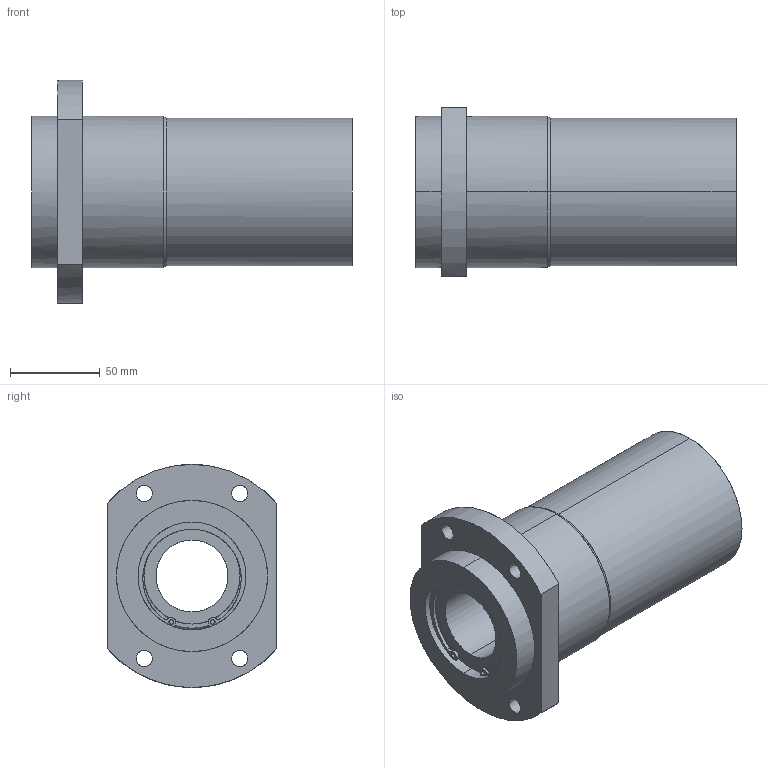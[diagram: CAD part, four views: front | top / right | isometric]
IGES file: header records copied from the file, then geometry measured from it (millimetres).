
Global section: file name: No Iges File Name specified; native system: AutoDesk Inventor R11.0; preprocessor: AutoDesk Inventor Iges Exporter R11.0; author: No Author specified; organization: No Organization specified; date: 20170922.133616; units: millimetre
Bounding box: 178 x 94 x 124 mm (x, y, z)
Surface area: 94825.3 mm2 (no closed solid volume)
Topology: 0 solids, 0 shells, 95 faces, 706 edges, 706 vertices
Faces by surface type: bspline 95
